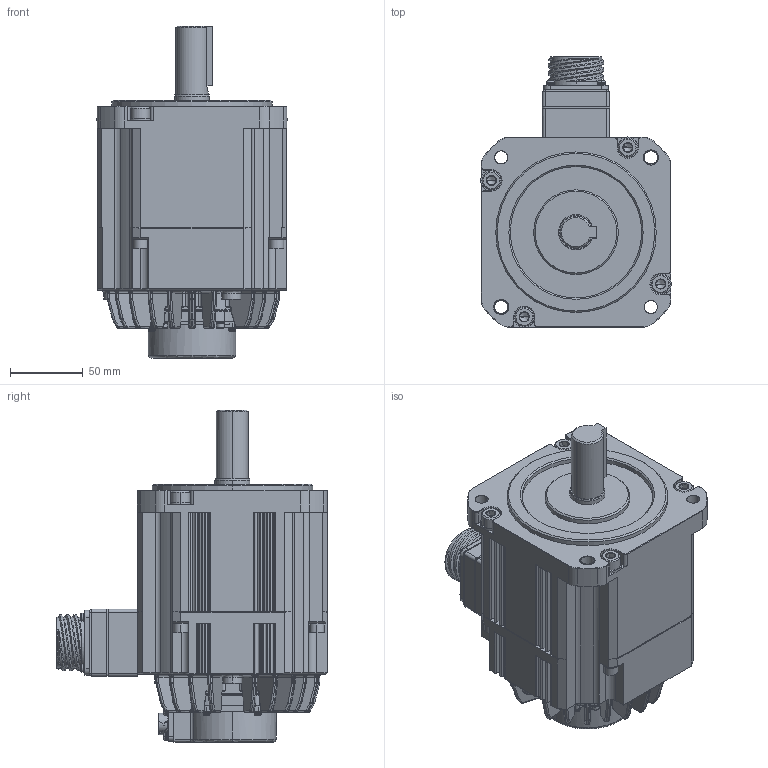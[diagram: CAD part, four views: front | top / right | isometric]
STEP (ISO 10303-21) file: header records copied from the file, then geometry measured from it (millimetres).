
FILE_DESCRIPTION (( 'STEP AP203' ), '1' );
FILE_NAME ('TSM3506N2371E733‘•”z•Ð.STEP', '2018-06-25T02:23:42', ( '' ), ( '' ), 'SwSTEP 2.0', 'SolidWorks 2017', '' );
FILE_SCHEMA (( 'CONFIG_CONTROL_DESIGN' ));
Length unit declared in the file: millimetre
Products named in the file (3): TSM3506N2371E733装配片; 螺紋孔
Assembly tree (2 placements, depth 2):
  TSM3506N2371E733装配片
    TSM3506N2371E733装配片
    螺紋孔
Bounding box: 130.5 x 185.7 x 227.5 mm (x, y, z)
Surface area: 161858.6 mm2 (no closed solid volume)
Topology: 0 solids, 15 shells, 3109 faces, 7811 edges, 4720 vertices
Faces by surface type: bspline 1091, plane 1033, cylinder 763, cone 222
Entity records: 152765 total; most frequent: CARTESIAN_POINT 86687, ORIENTED_EDGE 15346, DIRECTION 11236, EDGE_CURVE 7706, VERTEX_POINT 4720, AXIS2_PLACEMENT_3D 3822, VECTOR 3592, LINE 3592
